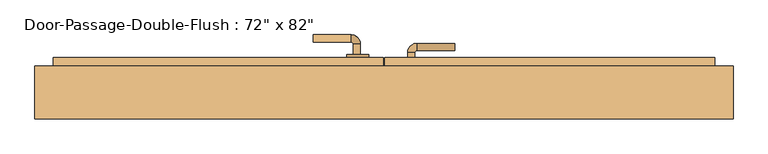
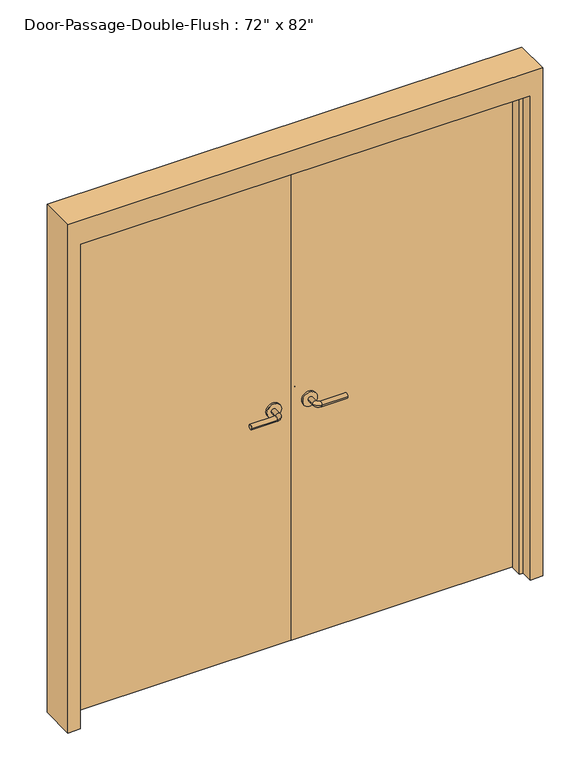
"""IFC4 building model written with IfcOpenShell, lengths in millimetres: door geometry."""

from ifc_helpers import new_model, si_unit, point, frame, frame_2d, origin, origin_with_axes, place, context, project, spatial, polyline, circle_curve, ellipse_curve, trimmed, segment, composite_curve, outline, extrude, faceted_brep, source, transform, mapped, element, save
from ifc_brep_helpers import plane_surface, cylinder_surface, revolved_surface, advanced_brep


def door_2f250f70(model_context):
    return source(origin(), model_context, "Body", "SolidModel", [
        advanced_brep(
        [(-65.009375, 6.2875, 1016.0), (-85.009375, 6.2875, 1016.0), (-65.009375, -23.7125, 1016.0), (-85.009375, -23.7125, 1016.0), (-90.009375, -28.7125, 1016.0), (-90.009375, -48.7125, 1016.0), (-195.009375, -48.7125, 1016.0), (-195.009375, -28.7125, 1016.0)],
        [
            (0, 1, circle_curve(frame((-75.009375, 6.2875, 1016.0), z_axis=(0.0, 1.0, 0.0), x_axis=(-1.0, 0.0, 0.0)), 10.0)),
            (1, 0, circle_curve(frame((-75.009375, 6.2875, 1016.0), z_axis=(0.0, 1.0, 0.0), x_axis=(-1.0, 0.0, 0.0)), 10.0)),
            (0, 2),
            (2, 3, circle_curve(frame((-75.009375, -23.7125, 1016.0), z_axis=(0.0, 1.0, 0.0), x_axis=(-1.0, 0.0, 0.0)), 10.0)),
            (3, 1),
            (3, 2, circle_curve(frame((-75.009375, -23.7125, 1016.0), z_axis=(0.0, 1.0, 0.0), x_axis=(-1.0, 0.0, 0.0)), 10.0)),
            (4, 3, circle_curve(frame((-90.009375, -23.7125, 1016.0), z_axis=(0.0, 0.0, 1.0), x_axis=(1.0, 0.0, 0.0)), 5.0)),
            (2, 5, circle_curve(frame((-90.009375, -23.7125, 1016.0), z_axis=(0.0, 0.0, -1.0), x_axis=(1.0, 0.0, 0.0)), 25.0)),
            (5, 4, circle_curve(frame((-90.009375, -38.7125, 1016.0), z_axis=(1.0, 0.0, 0.0), x_axis=(0.0, 1.0, 0.0)), 10.0)),
            (4, 5, circle_curve(frame((-90.009375, -38.7125, 1016.0), z_axis=(1.0, 0.0, 0.0), x_axis=(0.0, 1.0, 0.0)), 10.0)),
            (6, 7, circle_curve(frame((-195.009375, -38.7125, 1016.0), z_axis=(-1.0, 0.0, 0.0), x_axis=(0.0, 1.0, 0.0)), 10.0)),
            (7, 6, circle_curve(frame((-195.009375, -38.7125, 1016.0), z_axis=(-1.0, 0.0, 0.0), x_axis=(0.0, 1.0, 0.0)), 10.0)),
            (5, 6),
            (7, 4),
        ],
        [
            plane_surface(frame((-75.009375, 6.2875, 1016.0), z_axis=(0.0, 1.0, 0.0), x_axis=(0.0, 0.0, 1.0))),
            cylinder_surface(frame((-75.009375, 6.2875, 1016.0), z_axis=(0.0, 1.0, 0.0), x_axis=(-1.0, 0.0, 0.0)), 10.0),
            revolved_surface(trimmed(ellipse_curve(frame((-75.009375, -23.7125, 1016.0), z_axis=(0.0, 1.0, 0.0), x_axis=(-1.0, 0.0, 0.0)), 10.0, 10.0), [point((-65.009375, -23.7125, 1016.0))], [point((-85.009375, -23.7125, 1016.0))], True, "CARTESIAN"), (-90.009375, -23.7125, 1016.0), (0.0, 0.0, -1.0)),
            revolved_surface(trimmed(ellipse_curve(frame((-75.009375, -23.7125, 1016.0), z_axis=(0.0, 1.0, 0.0), x_axis=(-1.0, 0.0, 0.0)), 10.0, 10.0), [point((-85.009375, -23.7125, 1016.0))], [point((-65.009375, -23.7125, 1016.0))], True, "CARTESIAN"), (-90.009375, -23.7125, 1016.0), (0.0, 0.0, -1.0)),
            plane_surface(frame((-195.009375, -38.7125, 1016.0), z_axis=(-1.0, 0.0, 0.0), x_axis=(0.0, 0.0, 1.0))),
            cylinder_surface(frame((-90.009375, -38.7125, 1016.0), z_axis=(1.0, 0.0, 0.0), x_axis=(0.0, 1.0, 0.0)), 10.0),
        ],
        [
            (0, [[1, 2]]),
            (1, [[-1, 3, 4, 5]]),
            (1, [[-2, -5, 6, -3]]),
            (2, [[7, -4, 8, 9]]),
            (3, [[-8, -6, -7, 10]]),
            (4, [[11, 12]]),
            (5, [[-9, 13, -12, 14]]),
            (5, [[-10, -14, -11, -13]]),
        ],
    ),
        extrude(outline(composite_curve([segment(trimmed(circle_curve(frame_2d((1016.0, -72.509375)), 30.0), [point((1016.0, -42.509375))], [point((1016.0, -102.509375))], False, "CARTESIAN"), True, "CONTINUOUS"), segment(trimmed(circle_curve(frame_2d((1016.0, -72.509375)), 30.0), [point((1016.0, -102.509375))], [point((1016.0, -42.509375))], False, "CARTESIAN"), True, "CONTINUOUS")], self_intersect=False)), frame((0.0, 6.2875, 0.0), z_axis=(0.0, 1.0, 0.0), x_axis=(0.0, 0.0, 1.0)), (0.0, 0.0, 1.0), 8.0),
        advanced_brep(
        [(-65.009375, 90.55, 1016.0), (-85.009375, 90.55, 1016.0), (-85.009375, 120.55, 1016.0), (-65.009375, 120.55, 1016.0), (-90.009375, 125.55, 1016.0), (-90.009375, 145.55, 1016.0), (-195.009375, 145.55, 1016.0), (-195.009375, 125.55, 1016.0)],
        [
            (0, 1, circle_curve(frame((-75.009375, 90.55, 1016.0), z_axis=(0.0, -1.0, 0.0), x_axis=(-1.0, 0.0, 0.0)), 10.0)),
            (1, 0, circle_curve(frame((-75.009375, 90.55, 1016.0), z_axis=(0.0, -1.0, 0.0), x_axis=(-1.0, 0.0, 0.0)), 10.0)),
            (1, 2),
            (2, 3, circle_curve(frame((-75.009375, 120.55, 1016.0), z_axis=(0.0, -1.0, 0.0), x_axis=(-1.0, 0.0, 0.0)), 10.0)),
            (3, 0),
            (3, 2, circle_curve(frame((-75.009375, 120.55, 1016.0), z_axis=(0.0, -1.0, 0.0), x_axis=(-1.0, 0.0, 0.0)), 10.0)),
            (4, 5, circle_curve(frame((-90.009375, 135.55, 1016.0), z_axis=(1.0, 0.0, 0.0), x_axis=(0.0, -1.0, 0.0)), 10.0)),
            (5, 3, circle_curve(frame((-90.009375, 120.55, 1016.0), z_axis=(0.0, 0.0, -1.0), x_axis=(1.0, 0.0, 0.0)), 25.0)),
            (2, 4, circle_curve(frame((-90.009375, 120.55, 1016.0), z_axis=(0.0, 0.0, 1.0), x_axis=(1.0, 0.0, 0.0)), 5.0)),
            (5, 4, circle_curve(frame((-90.009375, 135.55, 1016.0), z_axis=(1.0, 0.0, 0.0), x_axis=(0.0, -1.0, 0.0)), 10.0)),
            (6, 7, circle_curve(frame((-195.009375, 135.55, 1016.0), z_axis=(-1.0, 0.0, 0.0), x_axis=(0.0, -1.0, 0.0)), 10.0)),
            (7, 6, circle_curve(frame((-195.009375, 135.55, 1016.0), z_axis=(-1.0, 0.0, 0.0), x_axis=(0.0, -1.0, 0.0)), 10.0)),
            (4, 7),
            (6, 5),
        ],
        [
            plane_surface(frame((-75.009375, 90.55, 1016.0), z_axis=(0.0, -1.0, 0.0), x_axis=(0.0, 0.0, 1.0))),
            cylinder_surface(frame((-75.009375, 90.55, 1016.0), z_axis=(0.0, -1.0, 0.0), x_axis=(-1.0, 0.0, 0.0)), 10.0),
            revolved_surface(trimmed(ellipse_curve(frame((-75.009375, 120.55, 1016.0), z_axis=(0.0, 1.0, 0.0), x_axis=(-1.0, 0.0, 0.0)), 10.0, 10.0), [point((-65.009375, 120.55, 1016.0))], [point((-85.009375, 120.55, 1016.0))], True, "CARTESIAN"), (-90.009375, 120.55, 1016.0), (0.0, 0.0, -1.0)),
            revolved_surface(trimmed(ellipse_curve(frame((-75.009375, 120.55, 1016.0), z_axis=(0.0, 1.0, 0.0), x_axis=(-1.0, 0.0, 0.0)), 10.0, 10.0), [point((-85.009375, 120.55, 1016.0))], [point((-65.009375, 120.55, 1016.0))], True, "CARTESIAN"), (-90.009375, 120.55, 1016.0), (0.0, 0.0, -1.0)),
            plane_surface(frame((-195.009375, 135.55, 1016.0), z_axis=(-1.0, 0.0, 0.0), x_axis=(0.0, 0.0, 1.0))),
            cylinder_surface(frame((-90.009375, 135.55, 1016.0), z_axis=(1.0, 0.0, 0.0), x_axis=(0.0, -1.0, 0.0)), 10.0),
        ],
        [
            (0, [[1, 2]]),
            (1, [[3, 4, 5, -2]]),
            (1, [[-5, 6, -3, -1]]),
            (2, [[7, 8, -4, 9]]),
            (3, [[10, -9, -6, -8]]),
            (4, [[11, 12]]),
            (5, [[13, -11, 14, -7]]),
            (5, [[-14, -12, -13, -10]]),
        ],
    ),
        extrude(outline(composite_curve([segment(trimmed(circle_curve(frame_2d((1016.0, -72.509375)), 30.0), [point((1016.0, -42.509375))], [point((1016.0, -102.509375))], False, "CARTESIAN"), True, "CONTINUOUS"), segment(trimmed(circle_curve(frame_2d((1016.0, -72.509375)), 30.0), [point((1016.0, -102.509375))], [point((1016.0, -42.509375))], False, "CARTESIAN"), True, "CONTINUOUS")], self_intersect=False)), frame((0.0, 82.55, 0.0), z_axis=(0.0, 1.0, 0.0), x_axis=(0.0, 0.0, 1.0)), (0.0, 0.0, 1.0), 8.0),
        advanced_brep(
        [(65.009375, 6.2875, 1016.0), (85.009375, 6.2875, 1016.0), (85.009375, -23.7125, 1016.0), (65.009375, -23.7125, 1016.0), (90.009375, -28.7125, 1016.0), (90.009375, -48.7125, 1016.0), (195.009375, -48.7125, 1016.0), (195.009375, -28.7125, 1016.0)],
        [
            (0, 1, circle_curve(frame((75.009375, 6.2875, 1016.0), z_axis=(0.0, 1.0, 0.0), x_axis=(1.0, 0.0, 0.0)), 10.0)),
            (1, 0, circle_curve(frame((75.009375, 6.2875, 1016.0), z_axis=(0.0, 1.0, 0.0), x_axis=(1.0, 0.0, 0.0)), 10.0)),
            (1, 2),
            (2, 3, circle_curve(frame((75.009375, -23.7125, 1016.0), z_axis=(0.0, 1.0, 0.0), x_axis=(1.0, 0.0, 0.0)), 10.0)),
            (3, 0),
            (3, 2, circle_curve(frame((75.009375, -23.7125, 1016.0), z_axis=(0.0, 1.0, 0.0), x_axis=(1.0, 0.0, 0.0)), 10.0)),
            (4, 5, circle_curve(frame((90.009375, -38.7125, 1016.0), z_axis=(-1.0, 0.0, 0.0), x_axis=(0.0, 1.0, 0.0)), 10.0)),
            (5, 3, circle_curve(frame((90.009375, -23.7125, 1016.0), z_axis=(0.0, 0.0, -1.0), x_axis=(-1.0, 0.0, 0.0)), 25.0)),
            (2, 4, circle_curve(frame((90.009375, -23.7125, 1016.0), z_axis=(0.0, 0.0, 1.0), x_axis=(-1.0, 0.0, 0.0)), 5.0)),
            (5, 4, circle_curve(frame((90.009375, -38.7125, 1016.0), z_axis=(-1.0, 0.0, 0.0), x_axis=(0.0, 1.0, 0.0)), 10.0)),
            (6, 7, circle_curve(frame((195.009375, -38.7125, 1016.0), z_axis=(1.0, 0.0, 0.0), x_axis=(0.0, 1.0, 0.0)), 10.0)),
            (7, 6, circle_curve(frame((195.009375, -38.7125, 1016.0), z_axis=(1.0, 0.0, 0.0), x_axis=(0.0, 1.0, 0.0)), 10.0)),
            (4, 7),
            (6, 5),
        ],
        [
            plane_surface(frame((75.009375, 6.2875, 1016.0), z_axis=(0.0, 1.0, 0.0), x_axis=(0.0, 0.0, 1.0))),
            cylinder_surface(frame((75.009375, 6.2875, 1016.0), z_axis=(0.0, 1.0, 0.0), x_axis=(1.0, 0.0, 0.0)), 10.0),
            revolved_surface(trimmed(ellipse_curve(frame((75.009375, -23.7125, 1016.0), z_axis=(0.0, -1.0, 0.0), x_axis=(1.0, 0.0, 0.0)), 10.0, 10.0), [point((65.009375, -23.7125, 1016.0))], [point((85.009375, -23.7125, 1016.0))], True, "CARTESIAN"), (90.009375, -23.7125, 1016.0), (0.0, 0.0, -1.0)),
            revolved_surface(trimmed(ellipse_curve(frame((75.009375, -23.7125, 1016.0), z_axis=(0.0, -1.0, 0.0), x_axis=(1.0, 0.0, 0.0)), 10.0, 10.0), [point((85.009375, -23.7125, 1016.0))], [point((65.009375, -23.7125, 1016.0))], True, "CARTESIAN"), (90.009375, -23.7125, 1016.0), (0.0, 0.0, -1.0)),
            plane_surface(frame((195.009375, -38.7125, 1016.0), z_axis=(1.0, 0.0, 0.0), x_axis=(0.0, 0.0, 1.0))),
            cylinder_surface(frame((90.009375, -38.7125, 1016.0), z_axis=(-1.0, 0.0, 0.0), x_axis=(0.0, 1.0, 0.0)), 10.0),
        ],
        [
            (0, [[1, 2]]),
            (1, [[3, 4, 5, -2]]),
            (1, [[-5, 6, -3, -1]]),
            (2, [[7, 8, -4, 9]]),
            (3, [[10, -9, -6, -8]]),
            (4, [[11, 12]]),
            (5, [[13, -11, 14, -7]]),
            (5, [[-14, -12, -13, -10]]),
        ],
    ),
        extrude(outline(composite_curve([segment(trimmed(circle_curve(frame_2d((1016.0, 72.509375)), 30.0), [point((1016.0, 42.509375))], [point((1016.0, 102.509375))], False, "CARTESIAN"), True, "CONTINUOUS"), segment(trimmed(circle_curve(frame_2d((1016.0, 72.509375)), 30.0), [point((1016.0, 102.509375))], [point((1016.0, 42.509375))], False, "CARTESIAN"), True, "CONTINUOUS")], self_intersect=False)), frame((0.0, 6.2875, 0.0), z_axis=(0.0, 1.0, 0.0), x_axis=(0.0, 0.0, 1.0)), (0.0, 0.0, 1.0), 8.0),
        advanced_brep(
        [(65.009375, 66.7375, 1016.0), (85.009375, 66.7375, 1016.0), (65.009375, 96.7375, 1016.0), (85.009375, 96.7375, 1016.0), (90.009375, 101.7375, 1016.0), (90.009375, 121.7375, 1016.0), (195.009375, 121.7375, 1016.0), (195.009375, 101.7375, 1016.0)],
        [
            (0, 1, circle_curve(frame((75.009375, 66.7375, 1016.0), z_axis=(0.0, -1.0, 0.0), x_axis=(1.0, 0.0, 0.0)), 10.0)),
            (1, 0, circle_curve(frame((75.009375, 66.7375, 1016.0), z_axis=(0.0, -1.0, 0.0), x_axis=(1.0, 0.0, 0.0)), 10.0)),
            (0, 2),
            (2, 3, circle_curve(frame((75.009375, 96.7375, 1016.0), z_axis=(0.0, -1.0, 0.0), x_axis=(1.0, 0.0, 0.0)), 10.0)),
            (3, 1),
            (3, 2, circle_curve(frame((75.009375, 96.7375, 1016.0), z_axis=(0.0, -1.0, 0.0), x_axis=(1.0, 0.0, 0.0)), 10.0)),
            (4, 3, circle_curve(frame((90.009375, 96.7375, 1016.0), z_axis=(0.0, 0.0, 1.0), x_axis=(-1.0, 0.0, 0.0)), 5.0)),
            (2, 5, circle_curve(frame((90.009375, 96.7375, 1016.0), z_axis=(0.0, 0.0, -1.0), x_axis=(-1.0, 0.0, 0.0)), 25.0)),
            (5, 4, circle_curve(frame((90.009375, 111.7375, 1016.0), z_axis=(-1.0, 0.0, 0.0), x_axis=(0.0, -1.0, 0.0)), 10.0)),
            (4, 5, circle_curve(frame((90.009375, 111.7375, 1016.0), z_axis=(-1.0, 0.0, 0.0), x_axis=(0.0, -1.0, 0.0)), 10.0)),
            (6, 7, circle_curve(frame((195.009375, 111.7375, 1016.0), z_axis=(1.0, 0.0, 0.0), x_axis=(0.0, -1.0, 0.0)), 10.0)),
            (7, 6, circle_curve(frame((195.009375, 111.7375, 1016.0), z_axis=(1.0, 0.0, 0.0), x_axis=(0.0, -1.0, 0.0)), 10.0)),
            (5, 6),
            (7, 4),
        ],
        [
            plane_surface(frame((75.009375, 66.7375, 1016.0), z_axis=(0.0, -1.0, 0.0), x_axis=(0.0, 0.0, 1.0))),
            cylinder_surface(frame((75.009375, 66.7375, 1016.0), z_axis=(0.0, -1.0, 0.0), x_axis=(1.0, 0.0, 0.0)), 10.0),
            revolved_surface(trimmed(ellipse_curve(frame((75.009375, 96.7375, 1016.0), z_axis=(0.0, -1.0, 0.0), x_axis=(1.0, 0.0, 0.0)), 10.0, 10.0), [point((65.009375, 96.7375, 1016.0))], [point((85.009375, 96.7375, 1016.0))], True, "CARTESIAN"), (90.009375, 96.7375, 1016.0), (0.0, 0.0, -1.0)),
            revolved_surface(trimmed(ellipse_curve(frame((75.009375, 96.7375, 1016.0), z_axis=(0.0, -1.0, 0.0), x_axis=(1.0, 0.0, 0.0)), 10.0, 10.0), [point((85.009375, 96.7375, 1016.0))], [point((65.009375, 96.7375, 1016.0))], True, "CARTESIAN"), (90.009375, 96.7375, 1016.0), (0.0, 0.0, -1.0)),
            plane_surface(frame((195.009375, 111.7375, 1016.0), z_axis=(1.0, 0.0, 0.0), x_axis=(0.0, 0.0, 1.0))),
            cylinder_surface(frame((90.009375, 111.7375, 1016.0), z_axis=(-1.0, 0.0, 0.0), x_axis=(0.0, -1.0, 0.0)), 10.0),
        ],
        [
            (0, [[1, 2]]),
            (1, [[-1, 3, 4, 5]]),
            (1, [[-2, -5, 6, -3]]),
            (2, [[7, -4, 8, 9]]),
            (3, [[-8, -6, -7, 10]]),
            (4, [[11, 12]]),
            (5, [[-9, 13, -12, 14]]),
            (5, [[-10, -14, -11, -13]]),
        ],
    ),
        extrude(outline(composite_curve([segment(trimmed(circle_curve(frame_2d((1016.0, 72.509375)), 30.0), [point((1016.0, 42.509375))], [point((1016.0, 102.509375))], False, "CARTESIAN"), True, "CONTINUOUS"), segment(trimmed(circle_curve(frame_2d((1016.0, 72.509375)), 30.0), [point((1016.0, 102.509375))], [point((1016.0, 42.509375))], False, "CARTESIAN"), True, "CONTINUOUS")], self_intersect=False)), frame((0.0, 58.7375, 0.0), z_axis=(0.0, 1.0, 0.0), x_axis=(0.0, 0.0, 1.0)), (0.0, 0.0, 1.0), 8.0),
        faceted_brep([(914.4, 9.525, 0.0), (914.4, 58.7375, 0.0), (965.2, 58.7375, 0.0), (965.2, -87.3125, 0.0), (914.4, -87.3125, 0.0), (914.4, -38.1, 0.0), (898.525, -38.1, 0.0), (898.525, 9.525, 0.0), (914.4, 9.525, 2082.8), (914.4, 58.7375, 2082.8), (-914.4, 58.7375, 2082.8), (-914.4, 58.7375, 0.0), (-965.2, 58.7375, 0.0), (-965.2, 58.7375, 2184.4), (965.2, 58.7375, 2184.4), (965.2, -87.3125, 2184.4), (-965.2, -87.3125, 2184.4), (-965.2, -87.3125, 0.0), (-914.4, -87.3125, 0.0), (-914.4, -87.3125, 2082.8), (914.4, -87.3125, 2082.8), (914.4, -38.1, 2082.8), (-914.4, -38.1, 2082.8), (-914.4, -38.1, 0.0), (-898.525, -38.1, 0.0), (-898.525, -38.1, 2066.925), (898.525, -38.1, 2066.925), (898.525, 9.525, 2066.925), (-898.525, 9.525, 2066.925), (-898.525, 9.525, 0.0), (-914.4, 9.525, 0.0), (-914.4, 9.525, 2082.8)], [[[0, 1, 2, 3, 4, 5, 6, 7]], [[1, 0, 8, 9]], [[2, 1, 9, 10, 11, 12, 13, 14]], [[3, 2, 14, 15]], [[4, 3, 15, 16, 17, 18, 19, 20]], [[5, 4, 20, 21]], [[6, 5, 21, 22, 23, 24, 25, 26]], [[7, 6, 26, 27]], [[0, 7, 27, 28, 29, 30, 31, 8]], [[9, 8, 31, 10]], [[20, 19, 22, 21]], [[26, 25, 28, 27]], [[12, 11, 30, 29, 24, 23, 18, 17]], [[11, 10, 31, 30]], [[13, 12, 17, 16]], [[19, 18, 23, 22]], [[25, 24, 29, 28]], [[15, 14, 13, 16]]]),
        extrude(outline(polyline([(914.4, 14.2875), (1.5875, 14.2875), (1.5875, 82.55), (914.4, 82.55), (914.4, 14.2875)])), origin_with_axes(), (0.0, 0.0, 1.0), 2082.8),
        extrude(outline(polyline([(-1.5875, 14.2875), (-914.4, 14.2875), (-914.4, 82.55), (-1.5875, 82.55), (-1.5875, 14.2875)])), origin_with_axes(), (0.0, 0.0, 1.0), 2082.8),
    ])


if __name__ == "__main__":
    model = new_model("IFC4")
    model_context = context("Model", 3, world=origin())
    ifc_project = project(units=[si_unit("LENGTHUNIT", "METRE", prefix="MILLI")], contexts=[model_context])
    site = spatial("IfcSite", under=ifc_project)
    building = spatial("IfcBuilding", under=site)
    placement = place(None, origin())
    door_shape = door_2f250f70(model_context)
    element("IfcDoor", 1, ObjectType="Door-Passage-Double-Flush : 72\" x 82\"", at=placement, inside=building, context=model_context, shape_type="MappedRepresentation", body=[
        mapped(door_shape, transform((0.0, 0.0, 0.0), x_axis=(1.0, 0.0, 0.0), y_axis=(0.0, 1.0, 0.0), z_axis=(0.0, 0.0, 1.0))),
    ])
    save(model, "model.ifc")
